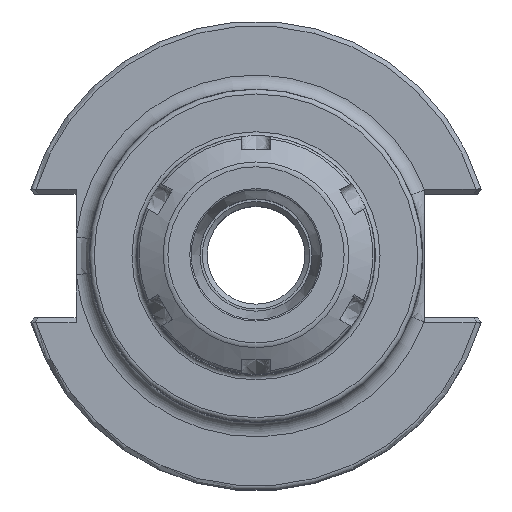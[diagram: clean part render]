
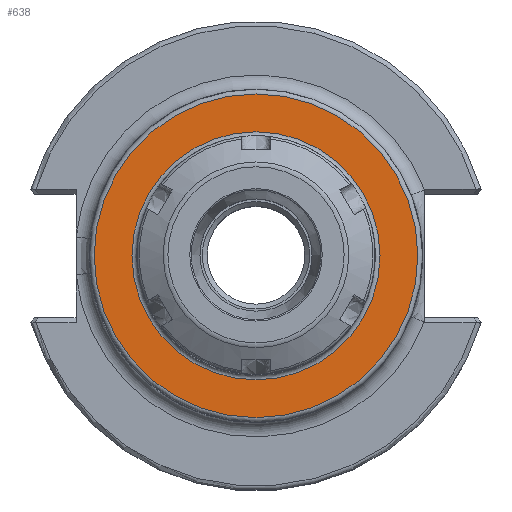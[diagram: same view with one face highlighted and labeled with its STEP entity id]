
A CAD part, top view. The second image highlights one B-rep face of the part: STEP entity #638.
In plain terms, the highlighted planar face has unit normal (0, 0, 1).
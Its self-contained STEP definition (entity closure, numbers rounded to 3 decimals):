
#331=FACE_BOUND('',#977,.T.);
#332=FACE_BOUND('',#978,.T.);
#638=ADVANCED_FACE('',(#331,#332),#741,.T.);
#741=PLANE('',#3046);
#977=EDGE_LOOP('',(#1952));
#978=EDGE_LOOP('',(#1953));
#1173=CIRCLE('',#3044,26.);
#1174=CIRCLE('',#3045,33.925);
#1952=ORIENTED_EDGE('',*,*,#2762,.T.);
#1953=ORIENTED_EDGE('',*,*,#2763,.T.);
#2429=VERTEX_POINT('',#5118);
#2430=VERTEX_POINT('',#5120);
#2762=EDGE_CURVE('',#2429,#2429,#1173,.T.);
#2763=EDGE_CURVE('',#2430,#2430,#1174,.T.);
#3044=AXIS2_PLACEMENT_3D('',#5117,#3577,#3578);
#3045=AXIS2_PLACEMENT_3D('',#5119,#3579,#3580);
#3046=AXIS2_PLACEMENT_3D('',#5121,#3581,#3582);
#3577=DIRECTION('',(0.,0.,-1.));
#3578=DIRECTION('',(1.,0.,0.));
#3579=DIRECTION('',(0.,0.,1.));
#3580=DIRECTION('',(1.,0.,0.));
#3581=DIRECTION('',(0.,0.,1.));
#3582=DIRECTION('',(-1.,0.,0.));
#5117=CARTESIAN_POINT('',(0.,0.,136.65));
#5118=CARTESIAN_POINT('',(26.,0.,136.65));
#5119=CARTESIAN_POINT('',(0.,0.,136.65));
#5120=CARTESIAN_POINT('',(33.925,0.,136.65));
#5121=CARTESIAN_POINT('',(0.,-34.925,136.65));
